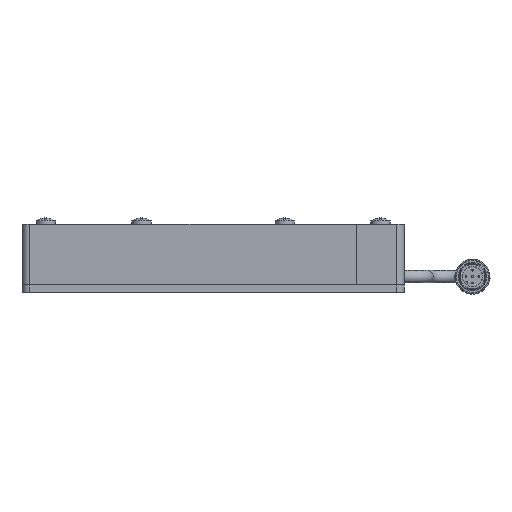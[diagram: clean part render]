
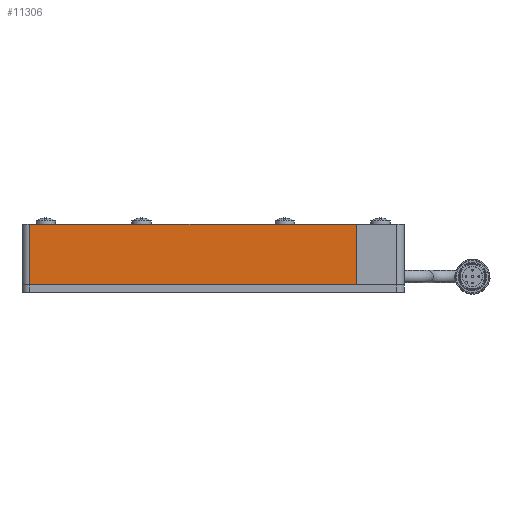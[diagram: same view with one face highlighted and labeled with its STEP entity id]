
A CAD part, left-side view. The second image highlights one B-rep face of the part: STEP entity #11306.
In plain terms, the highlighted planar face has unit normal (-1, 0, 0) as drawn and (0, 0, -1) by its records, which use the part's own axes.
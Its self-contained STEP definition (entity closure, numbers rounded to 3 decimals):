
#58 = CARTESIAN_POINT ( 'NONE',  ( 76.825, 12.7, -10. ) ) ;
#435 = EDGE_CURVE ( 'NONE', #12672, #2305, #1882, .T. ) ;
#1252 = LINE ( 'NONE', #8353, #10889 ) ;
#1277 = ORIENTED_EDGE ( 'NONE', *, *, #435, .T. ) ;
#1351 = VECTOR ( 'NONE', #14224, 1000. ) ;
#1882 = LINE ( 'NONE', #14381, #9402 ) ;
#2305 = VERTEX_POINT ( 'NONE', #13173 ) ;
#2816 = DIRECTION ( 'NONE',  ( 0., -1., 0. ) ) ;
#2840 = EDGE_CURVE ( 'NONE', #13141, #2305, #5097, .T. ) ;
#3472 = PLANE ( 'NONE',  #6544 ) ;
#3518 = ORIENTED_EDGE ( 'NONE', *, *, #4857, .T. ) ;
#3528 = EDGE_LOOP ( 'NONE', ( #10972, #3518, #1277, #11346 ) ) ;
#3545 = EDGE_CURVE ( 'NONE', #4752, #13141, #1252, .T. ) ;
#4673 = DIRECTION ( 'NONE',  ( 0., 0., 1. ) ) ;
#4752 = VERTEX_POINT ( 'NONE', #58 ) ;
#4815 = CARTESIAN_POINT ( 'NONE',  ( -80., 12.7, -10. ) ) ;
#4857 = EDGE_CURVE ( 'NONE', #4752, #12672, #8511, .T. ) ;
#5034 = DIRECTION ( 'NONE',  ( -1., 0., 0. ) ) ;
#5097 = LINE ( 'NONE', #9752, #1351 ) ;
#6544 = AXIS2_PLACEMENT_3D ( 'NONE', #4815, #4673, #8324 ) ;
#8324 = DIRECTION ( 'NONE',  ( 1., 0., 0. ) ) ;
#8353 = CARTESIAN_POINT ( 'NONE',  ( -80., 12.7, -10. ) ) ;
#8511 = LINE ( 'NONE', #13062, #9365 ) ;
#9148 = FACE_OUTER_BOUND ( 'NONE', #3528, .T. ) ;
#9365 = VECTOR ( 'NONE', #2816, 1000. ) ;
#9402 = VECTOR ( 'NONE', #5034, 1000. ) ;
#9493 = DIRECTION ( 'NONE',  ( -1., 0., 0. ) ) ;
#9589 = CARTESIAN_POINT ( 'NONE',  ( -60., 12.7, -10. ) ) ;
#9752 = CARTESIAN_POINT ( 'NONE',  ( -60., 248.492, -10. ) ) ;
#10889 = VECTOR ( 'NONE', #9493, 1000. ) ;
#10972 = ORIENTED_EDGE ( 'NONE', *, *, #3545, .F. ) ;
#11306 = ADVANCED_FACE ( 'NONE', ( #9148 ), #3472, .F. ) ;
#11346 = ORIENTED_EDGE ( 'NONE', *, *, #2840, .F. ) ;
#11576 = CARTESIAN_POINT ( 'NONE',  ( 76.825, -12.7, -10. ) ) ;
#12672 = VERTEX_POINT ( 'NONE', #11576 ) ;
#13062 = CARTESIAN_POINT ( 'NONE',  ( 76.825, 12.7, -10. ) ) ;
#13141 = VERTEX_POINT ( 'NONE', #9589 ) ;
#13173 = CARTESIAN_POINT ( 'NONE',  ( -60., -12.7, -10. ) ) ;
#14224 = DIRECTION ( 'NONE',  ( 0., -1., 0. ) ) ;
#14381 = CARTESIAN_POINT ( 'NONE',  ( -80., -12.7, -10. ) ) ;
